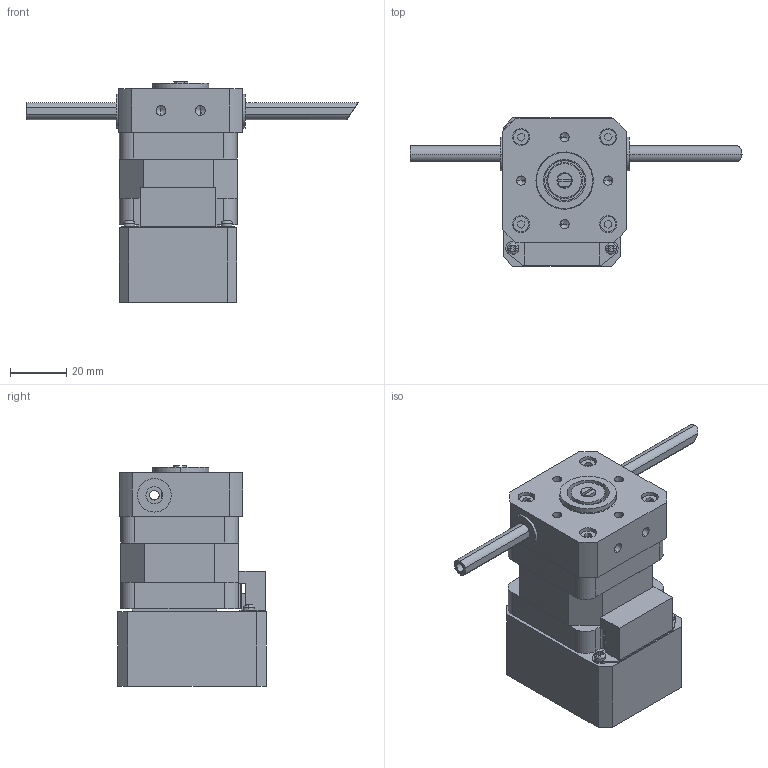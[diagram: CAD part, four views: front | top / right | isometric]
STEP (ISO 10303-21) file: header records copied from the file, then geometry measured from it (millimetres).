
FILE_DESCRIPTION (( 'STEP AP203' ), '1' );
FILE_NAME ('RRA-17.STEP', '2010-05-28T17:23:48', ( 'render' ), ( '' ), 'SwSTEP 2.0', 'SolidWorks 2009', '' );
FILE_SCHEMA (( 'CONFIG_CONTROL_DESIGN' ));
Length unit declared in the file: millimetre
Products named in the file (10): RRA-17; 4; 5; 15; 13; 14; Assem4; 1; 2; 3
Assembly tree (13 placements, depth 3):
  RRA-17
    14  x4
    15
    Assem4
      2
      1
    13
    5
    3
    4  x2
Bounding box: 118.22 x 53 x 78.5 mm (x, y, z)
Volume: 146534.7 mm3; surface area: 34685 mm2
Topology: 12 solids, 12 shells, 370 faces, 898 edges, 578 vertices
Faces by surface type: plane 192, cylinder 132, cone 32, bspline 14
Entity records: 11497 total; most frequent: CARTESIAN_POINT 2671, DIRECTION 1640, ORIENTED_EDGE 1556, EDGE_CURVE 778, AXIS2_PLACEMENT_3D 599, VERTEX_POINT 506, LINE 442, VECTOR 442
